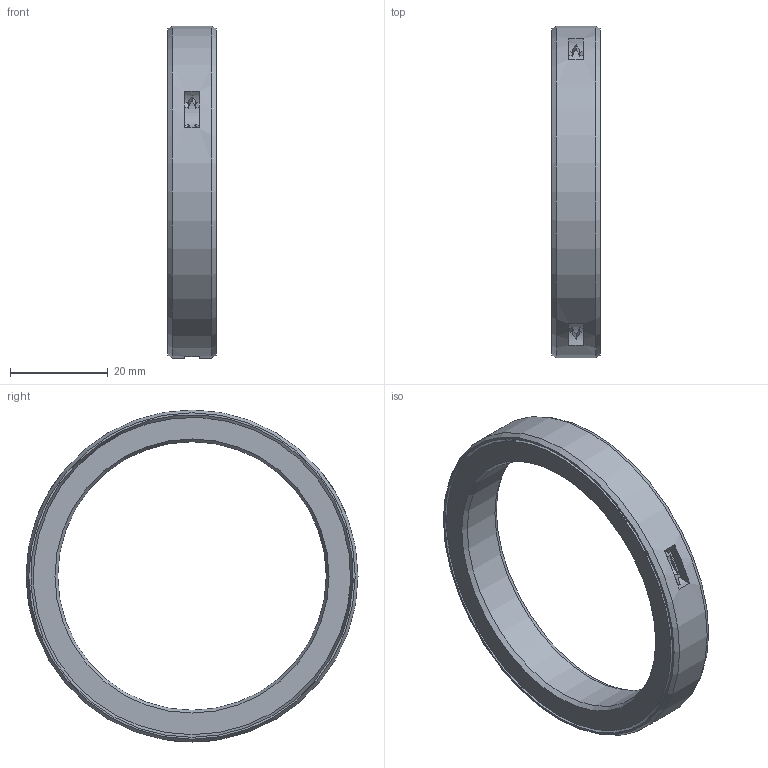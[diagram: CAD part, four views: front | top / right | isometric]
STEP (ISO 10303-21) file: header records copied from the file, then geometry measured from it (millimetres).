
FILE_DESCRIPTION(/* description */ (''),/* implementation_level */ '2;1');
FILE_NAME(/* name */ '301378 M 55x68x10.stp',/* time_stamp */ '2016-12-15T11:37:31+01:00',/* author */ (''),/* organization */ (''),/* preprocessor_version */ 'ST-DEVELOPER v15',/* originating_system */ 'SIEMENS PLM Software NX 8.5',/* authorisation */ '');
FILE_SCHEMA (('CONFIG_CONTROL_DESIGN'));
Length unit declared in the file: millimetre
Products named in the file (1): ATE0000124_01
Bounding box: 10 x 68 x 68 mm (x, y, z)
Volume: 10988.5 mm3; surface area: 10538.5 mm2
Topology: 2 solids, 2 shells, 49 faces, 143 edges, 94 vertices
Faces by surface type: cone 22, plane 16, cylinder 11
Full cylindrical faces by diameter (mm): 55 x1, 68 x1
Entity records: 1626 total; most frequent: CARTESIAN_POINT 396, ORIENTED_EDGE 240, DIRECTION 234, EDGE_CURVE 120, AXIS2_PLACEMENT_3D 114, VERTEX_POINT 84, CIRCLE 66, EDGE_LOOP 64
